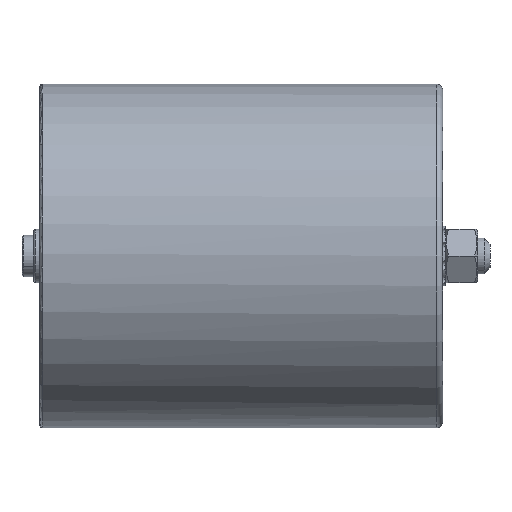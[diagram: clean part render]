
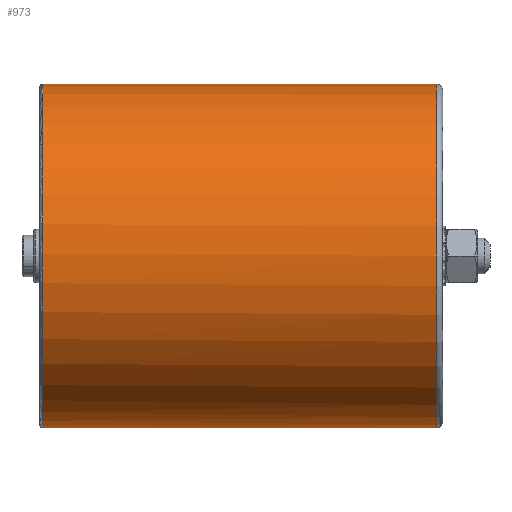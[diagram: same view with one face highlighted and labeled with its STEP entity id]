
A CAD part, left-side view. The second image highlights one B-rep face of the part: STEP entity #973.
In plain terms, the highlighted cylindrical face has radius 58 mm (diameter 116 mm), a partial arc.
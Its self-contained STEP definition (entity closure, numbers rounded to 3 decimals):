
#9 = CARTESIAN_POINT ( 'NONE',  ( 0., 0., 58. ) ) ;
#113 = DIRECTION ( 'NONE',  ( 0., 0., -1. ) ) ;
#146 = CARTESIAN_POINT ( 'NONE',  ( 0., 2., -58. ) ) ;
#317 = EDGE_CURVE ( 'NONE', #841, #1506, #3837, .T. ) ;
#537 = DIRECTION ( 'NONE',  ( 0., 0., -1. ) ) ;
#544 = DIRECTION ( 'NONE',  ( 0., -1., 0. ) ) ;
#550 = DIRECTION ( 'NONE',  ( 0., -1., 0. ) ) ;
#593 = VECTOR ( 'NONE', #544, 1000. ) ;
#746 = CIRCLE ( 'NONE', #4078, 58. ) ;
#841 = VERTEX_POINT ( 'NONE', #146 ) ;
#973 = ADVANCED_FACE ( 'NONE', ( #1163 ), #3495, .T. ) ;
#1035 = ORIENTED_EDGE ( 'NONE', *, *, #2553, .T. ) ;
#1145 = DIRECTION ( 'NONE',  ( 0., -1., 0. ) ) ;
#1163 = FACE_OUTER_BOUND ( 'NONE', #3461, .T. ) ;
#1171 = VERTEX_POINT ( 'NONE', #4230 ) ;
#1258 = CARTESIAN_POINT ( 'NONE',  ( 0., 0., -58. ) ) ;
#1283 = CARTESIAN_POINT ( 'NONE',  ( -38.196, 135., -43.647 ) ) ;
#1346 = CARTESIAN_POINT ( 'NONE',  ( 0., 135., -58. ) ) ;
#1367 = DIRECTION ( 'NONE',  ( 0., -1., 0. ) ) ;
#1411 = AXIS2_PLACEMENT_3D ( 'NONE', #2083, #1752, #113 ) ;
#1506 = VERTEX_POINT ( 'NONE', #3480 ) ;
#1520 = CARTESIAN_POINT ( 'NONE',  ( 0., 135., 0. ) ) ;
#1550 = AXIS2_PLACEMENT_3D ( 'NONE', #1520, #1868, #3532 ) ;
#1657 = VERTEX_POINT ( 'NONE', #1346 ) ;
#1752 = DIRECTION ( 'NONE',  ( 0., 1., 0. ) ) ;
#1829 = VECTOR ( 'NONE', #1367, 1000. ) ;
#1868 = DIRECTION ( 'NONE',  ( 0., -1., 0. ) ) ;
#2083 = CARTESIAN_POINT ( 'NONE',  ( 0., 2., 0. ) ) ;
#2167 = EDGE_CURVE ( 'NONE', #1171, #2727, #746, .T. ) ;
#2207 = CARTESIAN_POINT ( 'NONE',  ( 0., 0., 0. ) ) ;
#2359 = ORIENTED_EDGE ( 'NONE', *, *, #3438, .T. ) ;
#2553 = EDGE_CURVE ( 'NONE', #1657, #841, #3526, .T. ) ;
#2727 = VERTEX_POINT ( 'NONE', #1283 ) ;
#3219 = ORIENTED_EDGE ( 'NONE', *, *, #317, .T. ) ;
#3225 = DIRECTION ( 'NONE',  ( 0.659, 0., 0.753 ) ) ;
#3422 = ORIENTED_EDGE ( 'NONE', *, *, #3779, .F. ) ;
#3438 = EDGE_CURVE ( 'NONE', #2727, #1657, #3652, .T. ) ;
#3461 = EDGE_LOOP ( 'NONE', ( #3422, #3834, #2359, #1035, #3219 ) ) ;
#3480 = CARTESIAN_POINT ( 'NONE',  ( 0., 2., 58. ) ) ;
#3495 = CYLINDRICAL_SURFACE ( 'NONE', #3993, 58. ) ;
#3526 = LINE ( 'NONE', #1258, #593 ) ;
#3531 = CARTESIAN_POINT ( 'NONE',  ( 0., 135., 0. ) ) ;
#3532 = DIRECTION ( 'NONE',  ( 0.659, 0., 0.753 ) ) ;
#3631 = LINE ( 'NONE', #9, #1829 ) ;
#3652 = CIRCLE ( 'NONE', #1550, 58. ) ;
#3779 = EDGE_CURVE ( 'NONE', #1171, #1506, #3631, .T. ) ;
#3834 = ORIENTED_EDGE ( 'NONE', *, *, #2167, .T. ) ;
#3837 = CIRCLE ( 'NONE', #1411, 58. ) ;
#3993 = AXIS2_PLACEMENT_3D ( 'NONE', #2207, #1145, #537 ) ;
#4078 = AXIS2_PLACEMENT_3D ( 'NONE', #3531, #550, #3225 ) ;
#4230 = CARTESIAN_POINT ( 'NONE',  ( 0., 135., 58. ) ) ;
